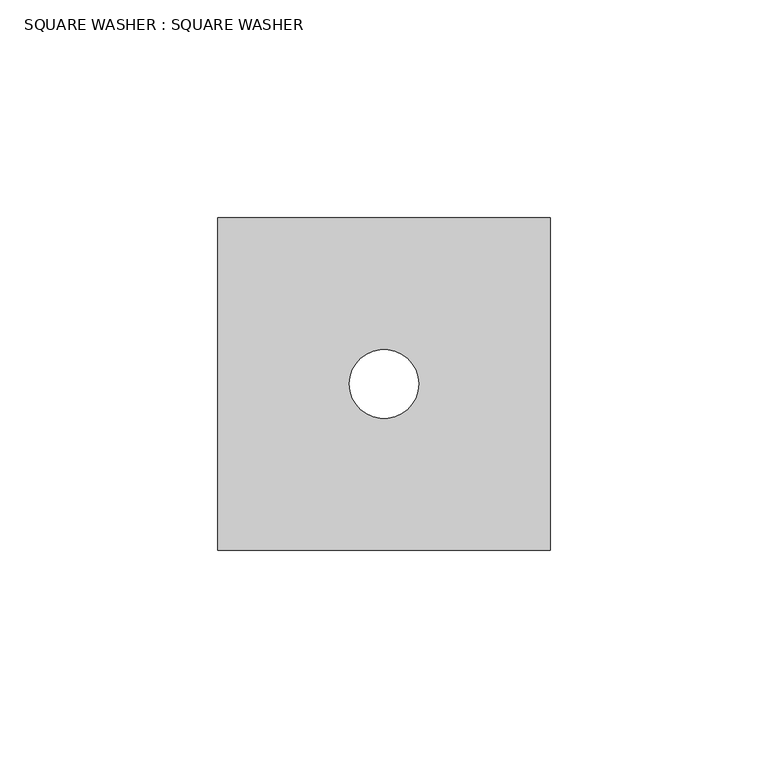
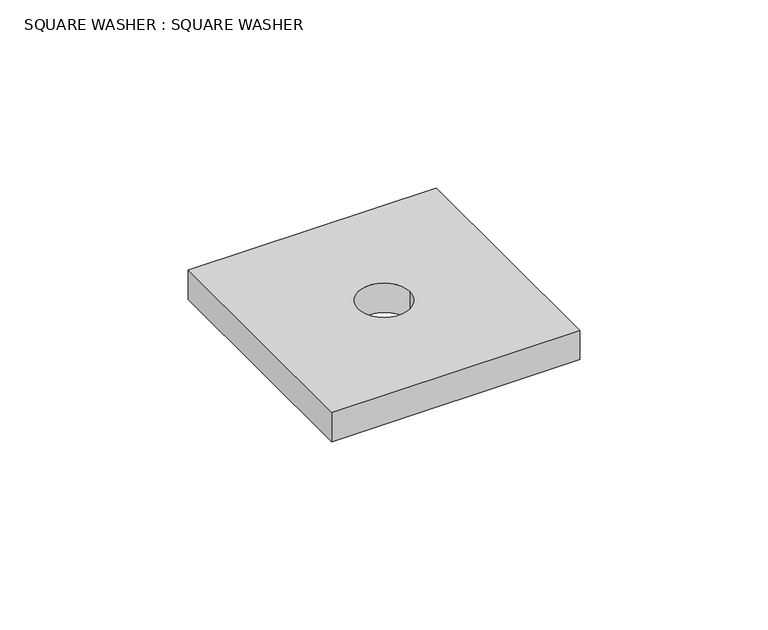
"""IFC4 building model written with IfcOpenShell, lengths in millimetres: proxy geometry, SQUARE WASHER : SQUARE WASHER."""

import ifcopenshell
import ifcopenshell.guid

model = None  # the IFC model being written
_history = None  # IfcOwnerHistory: only IFC2X3 demands one
_inside = {}  # id of a spatial element -> (the spatial element, [elements in it])
_under = {}  # id of a project, library or spatial element -> (it, [spatial elements below it])
_declared = {}  # id of a project -> (the project, [libraries it declares])
_typed = {}  # id of a type object -> (the type object, [elements of that type])
_made_of = {}  # id of a material, layer set ... -> (it, [elements and type objects made of it])


def new_model(schema):
    """Start an empty IFC model of exactly this schema.

    Asked for "IFC4X3", IfcOpenShell would pick the latest addendum, in which some entities
    have other attributes; the version numbers below select the first issue.
    IFC2X3 requires an IfcOwnerHistory on every rooted entity: one is made here for all.
    """
    global model, _history
    if schema == "IFC4X3":
        model = ifcopenshell.file(schema_version=(4, 3, 0, 0))
    else:
        model = ifcopenshell.file(schema=schema)
    _inside.clear()
    _under.clear()
    _declared.clear()
    _typed.clear()
    _made_of.clear()
    _history = None
    if model.schema == "IFC2X3":
        org = make("IfcOrganization", Name="unknown")
        user = make(
            "IfcPersonAndOrganization",
            ThePerson=make("IfcPerson", FamilyName="unknown"),
            TheOrganization=org,
        )
        app = make(
            "IfcApplication",
            ApplicationDeveloper=org,
            Version="unknown",
            ApplicationFullName="unknown",
            ApplicationIdentifier="unknown",
        )
        _history = make(
            "IfcOwnerHistory",
            OwningUser=user,
            OwningApplication=app,
            ChangeAction="ADDED",
            CreationDate=0,
        )
    return model


def make(cls, **values):
    """One entity of the class cls with the attributes given. An attribute that is None is left unset."""
    return model.create_entity(
        cls, **{name: value for name, value in values.items() if value is not None}
    )


def rooted(cls, **values):
    """An entity with a GlobalId (a new one), such as an element, a storey or a relation."""
    return make(cls, GlobalId=ifcopenshell.guid.new(), OwnerHistory=_history, **values)


def si_unit(unit_type, name, prefix=None):
    """IfcSIUnit, for example si_unit("LENGTHUNIT", "METRE", prefix="MILLI")."""
    return make("IfcSIUnit", UnitType=unit_type, Prefix=prefix, Name=name)


def assignment(units):
    """IfcUnitAssignment: the units of a project."""
    return None if units is None else make("IfcUnitAssignment", Units=units)


def point(xyz):
    """IfcCartesianPoint."""
    return None if xyz is None else make("IfcCartesianPoint", Coordinates=xyz)


def direction(xyz):
    """IfcDirection."""
    return None if xyz is None else make("IfcDirection", DirectionRatios=xyz)


def frame(location, z_axis=None, x_axis=None):
    """IfcAxis2Placement3D, a coordinate frame: its origin and axes. An axis left out is left unset."""
    return make(
        "IfcAxis2Placement3D",
        Location=point(location),
        Axis=direction(z_axis),
        RefDirection=direction(x_axis),
    )


def frame_2d(location, x_axis=None):
    """IfcAxis2Placement2D, a coordinate frame in the plane: its origin and x axis."""
    return make(
        "IfcAxis2Placement2D", Location=point(location), RefDirection=direction(x_axis)
    )


def origin():
    """The frame at (0, 0, 0) with its axes left unset."""
    return frame((0.0, 0.0, 0.0))


def origin_with_axes():
    """The frame at (0, 0, 0) with the z axis (0, 0, 1) and the x axis (1, 0, 0) written out."""
    return frame((0.0, 0.0, 0.0), z_axis=(0.0, 0.0, 1.0), x_axis=(1.0, 0.0, 0.0))


def origin_2d():
    """The frame at (0, 0) in the plane with its x axis left unset."""
    return frame_2d((0.0, 0.0))


def place(relative_to, where):
    """IfcLocalPlacement: puts the frame where relative to a parent placement (None: the world)."""
    return make(
        "IfcLocalPlacement", PlacementRelTo=relative_to, RelativePlacement=where
    )


def context(
    kind, dimensions, precision=None, world=None, true_north=None, identifier=None
):
    """IfcGeometricRepresentationContext, for example the 3D "Model" context."""
    return make(
        "IfcGeometricRepresentationContext",
        ContextIdentifier=identifier,
        ContextType=kind,
        CoordinateSpaceDimension=dimensions,
        Precision=precision,
        WorldCoordinateSystem=world,
        TrueNorth=true_north,
    )


def project(units=None, contexts=None):
    """IfcProject with its units and contexts."""
    return rooted(
        "IfcProject",
        Name="project",
        RepresentationContexts=contexts,
        UnitsInContext=assignment(units),
    )


def spatial(cls, under=None, at=None, **own):
    """A site, building, storey or space (cls), placed at a placement, below another one or the project."""
    s = rooted(cls, ObjectPlacement=at, **own)
    if under is not None:
        _under.setdefault(under.id(), (under, []))[1].append(s)
    return s


def polyline(points):
    """IfcPolyline through the points."""
    return make("IfcPolyline", Points=[point(p) for p in points])


def circle_curve(where, radius):
    """IfcCircle in the frame where."""
    return make("IfcCircle", Position=where, Radius=radius)


def trimmed(basis, trim1, trim2, sense, master):
    """IfcTrimmedCurve: the piece of a basis curve between two trims."""
    return make(
        "IfcTrimmedCurve",
        BasisCurve=basis,
        Trim1=trim1,
        Trim2=trim2,
        SenseAgreement=sense,
        MasterRepresentation=master,
    )


def segment(curve, same_sense, transition):
    """IfcCompositeCurveSegment."""
    return make(
        "IfcCompositeCurveSegment",
        Transition=transition,
        SameSense=same_sense,
        ParentCurve=curve,
    )


def composite_curve(segments, self_intersect=None):
    """IfcCompositeCurve: segments joined end to end."""
    return make("IfcCompositeCurve", Segments=segments, SelfIntersect=self_intersect)


def outline(outer, holes=None, kind="AREA"):
    """IfcArbitraryClosedProfileDef: a profile drawn as a closed curve; with holes, ...WithVoids."""
    if holes is None:
        return make("IfcArbitraryClosedProfileDef", ProfileType=kind, OuterCurve=outer)
    return make(
        "IfcArbitraryProfileDefWithVoids",
        ProfileType=kind,
        OuterCurve=outer,
        InnerCurves=holes,
    )


def extrude(swept, where, along, depth):
    """IfcExtrudedAreaSolid: the profile swept, set in the frame where, extruded along a direction by depth."""
    return make(
        "IfcExtrudedAreaSolid",
        SweptArea=swept,
        Position=where,
        ExtrudedDirection=direction(along),
        Depth=depth,
    )


def shape(context_of_items, identifier, shape_type, items):
    """IfcShapeRepresentation: the items that make up one representation, for example the "Body"."""
    return make(
        "IfcShapeRepresentation",
        ContextOfItems=context_of_items,
        RepresentationIdentifier=identifier,
        RepresentationType=shape_type,
        Items=items,
    )


def source(mapping_origin, context_of_items, identifier, shape_type, items):
    """IfcRepresentationMap: a shape defined once, which mapped items show again and again."""
    return make(
        "IfcRepresentationMap",
        MappingOrigin=mapping_origin,
        MappedRepresentation=shape(context_of_items, identifier, shape_type, items),
    )


def transform(
    local_origin,
    x_axis=None,
    y_axis=None,
    z_axis=None,
    scale=None,
    scale2=None,
    scale3=None,
    uniform=True,
):
    """IfcCartesianTransformationOperator3D, or its non-uniform kind. x_axis, y_axis, z_axis: its Axis1, 2, 3."""
    if uniform:
        return make(
            "IfcCartesianTransformationOperator3D",
            Axis1=direction(x_axis),
            Axis2=direction(y_axis),
            LocalOrigin=point(local_origin),
            Scale=scale,
            Axis3=direction(z_axis),
        )
    return make(
        "IfcCartesianTransformationOperator3DnonUniform",
        Axis1=direction(x_axis),
        Axis2=direction(y_axis),
        LocalOrigin=point(local_origin),
        Scale=scale,
        Axis3=direction(z_axis),
        Scale2=scale2,
        Scale3=scale3,
    )


def mapped(mapping_source, mapping_target):
    """IfcMappedItem: shows the shape of a source again, moved by a transform."""
    return make(
        "IfcMappedItem", MappingSource=mapping_source, MappingTarget=mapping_target
    )


def made_of(thing, what):
    """Note that an element or type object is made of a material, layer set ...; save() writes the relation."""
    if what is not None:
        _made_of.setdefault(what.id(), (what, []))[1].append(thing)
    return thing


def element(
    cls,
    number,
    at=None,
    inside=None,
    cuts=None,
    type_object=None,
    material=None,
    context=None,
    identifier="Body",
    shape_type=None,
    held_by="IfcProductDefinitionShape",
    body=None,
    shapes=None,
    **own,
):
    """One element of the class cls, such as IfcWall. Its Tag is "e" and its number.

    at: its placement. inside: the storey or other place that contains it. cuts: it is an
    opening in that element (IfcRelVoidsElement). A single representation is given by context,
    identifier, shape_type and body (its items); several are given by shapes. held_by: the class
    of the entity that holds the representations. save() writes the other relations.
    """
    e = rooted(cls, Tag="e%d" % number, ObjectPlacement=at, **own)
    if body is not None:
        shapes = [shape(context, identifier, shape_type, body)]
    if shapes is not None:
        e.Representation = make(held_by, Representations=shapes)
    if inside is not None:
        _inside.setdefault(inside.id(), (inside, []))[1].append(e)
    if cuts is not None:
        rooted(
            "IfcRelVoidsElement", RelatingBuildingElement=cuts, RelatedOpeningElement=e
        )
    if type_object is not None:
        _typed.setdefault(type_object.id(), (type_object, []))[1].append(e)
    return made_of(e, material)


def aggregate(whole, parts):
    """IfcRelAggregates: a whole, such as a stair, and the parts it consists of."""
    return rooted("IfcRelAggregates", RelatingObject=whole, RelatedObjects=parts)


def save(model, path):
    """Write the relations noted so far, then the file.

    IfcRelAggregates (storeys below a building ...), IfcRelContainedInSpatialStructure (elements
    in a storey), IfcRelDefinesByType, IfcRelAssociatesMaterial and IfcRelDeclares: one each for
    every whole, place, type object, material and project.
    """
    for whole, parts in _under.values():
        aggregate(whole, parts)
    for where, things in _inside.values():
        rooted(
            "IfcRelContainedInSpatialStructure",
            RelatedElements=things,
            RelatingStructure=where,
        )
    for kind, things in _typed.values():
        rooted("IfcRelDefinesByType", RelatedObjects=things, RelatingType=kind)
    for what, things in _made_of.values():
        rooted("IfcRelAssociatesMaterial", RelatedObjects=things, RelatingMaterial=what)
    for by, libraries in _declared.values():
        rooted("IfcRelDeclares", RelatingContext=by, RelatedDefinitions=libraries)
    model.write(path)


def square_washer_square_washer_42406848(model_context):
    return source(origin(), model_context, "Body", "SweptSolid", [
        extrude(outline(polyline([(38.1, 38.1), (38.1, -38.1), (-38.1, -38.1), (-38.1, 38.1), (38.1, 38.1)]), holes=[composite_curve([segment(trimmed(circle_curve(origin_2d(), 7.9375), [point((-7.9375, 0.0))], [point((7.9375, 0.0))], True, "CARTESIAN"), True, "CONTINUOUS"), segment(trimmed(circle_curve(origin_2d(), 7.9375), [point((7.9375, 0.0))], [point((-7.9375, 0.0))], True, "CARTESIAN"), True, "CONTINUOUS")], self_intersect=False)]), origin_with_axes(), (0.0, 0.0, 1.0), 9.525),
    ])


if __name__ == "__main__":
    model = new_model("IFC4")
    model_context = context("Model", 3, world=origin())
    ifc_project = project(units=[si_unit("LENGTHUNIT", "METRE", prefix="MILLI")], contexts=[model_context])
    site = spatial("IfcSite", under=ifc_project)
    building = spatial("IfcBuilding", under=site)
    placement = place(None, origin())
    square_washer_square_washer_shape = square_washer_square_washer_42406848(model_context)
    element("IfcBuildingElementProxy", 1, Name="SQUARE WASHER : SQUARE WASHER", ObjectType="SQUARE WASHER : SQUARE WASHER", at=placement, inside=building, context=model_context, shape_type="MappedRepresentation", body=[
        mapped(square_washer_square_washer_shape, transform((0.0, 0.0, 0.0), x_axis=(1.0, 0.0, 0.0), y_axis=(0.0, 1.0, 0.0), z_axis=(0.0, 0.0, 1.0))),
    ])
    save(model, "model.ifc")
